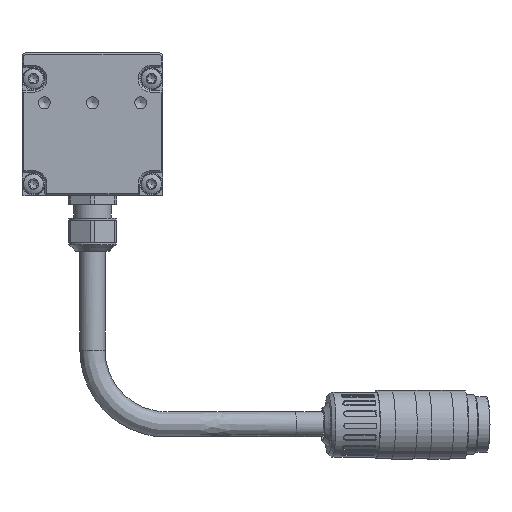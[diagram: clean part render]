
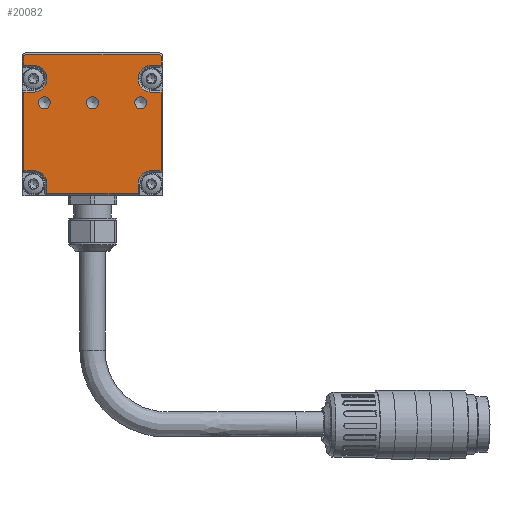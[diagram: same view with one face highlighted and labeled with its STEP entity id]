
A CAD part, left-side view. The second image highlights one B-rep face of the part: STEP entity #20082.
In plain terms, the highlighted planar face has unit normal (-1, 0, 0).
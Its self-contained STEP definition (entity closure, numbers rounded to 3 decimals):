
#880=LINE('',#27913,#1882);
#882=LINE('',#27917,#1884);
#886=LINE('',#27925,#1888);
#889=LINE('',#27931,#1891);
#891=LINE('',#27936,#1893);
#895=LINE('',#27944,#1897);
#897=LINE('',#27948,#1899);
#901=LINE('',#27957,#1903);
#903=LINE('',#27962,#1905);
#906=LINE('',#27970,#1908);
#909=LINE('',#27976,#1911);
#912=LINE('',#27984,#1914);
#916=LINE('',#27992,#1918);
#919=LINE('',#27999,#1921);
#1882=VECTOR('',#23214,1000.);
#1884=VECTOR('',#23218,1000.);
#1888=VECTOR('',#23224,1000.);
#1891=VECTOR('',#23229,1000.);
#1893=VECTOR('',#23235,1000.);
#1897=VECTOR('',#23241,1000.);
#1899=VECTOR('',#23247,1000.);
#1903=VECTOR('',#23257,1000.);
#1905=VECTOR('',#23265,1000.);
#1908=VECTOR('',#23274,1000.);
#1911=VECTOR('',#23283,1000.);
#1914=VECTOR('',#23292,1000.);
#1918=VECTOR('',#23302,1000.);
#1921=VECTOR('',#23311,1000.);
#2682=PLANE('',#21147);
#3923=ORIENTED_EDGE('',*,*,#7674,.T.);
#3924=ORIENTED_EDGE('',*,*,#7675,.T.);
#3925=ORIENTED_EDGE('',*,*,#7676,.T.);
#3926=ORIENTED_EDGE('',*,*,#7648,.T.);
#3927=ORIENTED_EDGE('',*,*,#7645,.T.);
#3928=ORIENTED_EDGE('',*,*,#7639,.T.);
#3929=ORIENTED_EDGE('',*,*,#7656,.T.);
#3930=ORIENTED_EDGE('',*,*,#7654,.T.);
#3931=ORIENTED_EDGE('',*,*,#7652,.T.);
#3932=ORIENTED_EDGE('',*,*,#7630,.T.);
#3933=ORIENTED_EDGE('',*,*,#7663,.T.);
#3934=ORIENTED_EDGE('',*,*,#7661,.T.);
#3935=ORIENTED_EDGE('',*,*,#7659,.T.);
#3936=ORIENTED_EDGE('',*,*,#7628,.T.);
#3937=ORIENTED_EDGE('',*,*,#7673,.F.);
#3938=ORIENTED_EDGE('',*,*,#7643,.T.);
#3939=ORIENTED_EDGE('',*,*,#7672,.F.);
#3940=ORIENTED_EDGE('',*,*,#7637,.T.);
#3941=ORIENTED_EDGE('',*,*,#7671,.T.);
#3942=ORIENTED_EDGE('',*,*,#7669,.T.);
#3943=ORIENTED_EDGE('',*,*,#7667,.T.);
#3944=ORIENTED_EDGE('',*,*,#7634,.T.);
#3945=ORIENTED_EDGE('',*,*,#7650,.T.);
#7628=EDGE_CURVE('',#9566,#9567,#880,.T.);
#7630=EDGE_CURVE('',#9569,#9568,#882,.T.);
#7634=EDGE_CURVE('',#9570,#9571,#886,.T.);
#7637=EDGE_CURVE('',#9572,#9573,#889,.T.);
#7639=EDGE_CURVE('',#9575,#9574,#891,.T.);
#7643=EDGE_CURVE('',#9576,#9577,#895,.T.);
#7645=EDGE_CURVE('',#9578,#9575,#897,.T.);
#7648=EDGE_CURVE('',#9579,#9578,#10697,.T.);
#7650=EDGE_CURVE('',#9571,#9579,#901,.T.);
#7652=EDGE_CURVE('',#9580,#9569,#903,.T.);
#7654=EDGE_CURVE('',#9581,#9580,#10698,.T.);
#7656=EDGE_CURVE('',#9574,#9581,#906,.T.);
#7659=EDGE_CURVE('',#9582,#9566,#909,.T.);
#7661=EDGE_CURVE('',#9583,#9582,#10699,.T.);
#7663=EDGE_CURVE('',#9568,#9583,#912,.T.);
#7667=EDGE_CURVE('',#9584,#9570,#916,.T.);
#7669=EDGE_CURVE('',#9585,#9584,#10700,.T.);
#7671=EDGE_CURVE('',#9573,#9585,#919,.T.);
#7672=EDGE_CURVE('',#9572,#9577,#10701,.T.);
#7673=EDGE_CURVE('',#9576,#9567,#10702,.T.);
#7674=EDGE_CURVE('',#9586,#9586,#10703,.T.);
#7675=EDGE_CURVE('',#9587,#9587,#10704,.T.);
#7676=EDGE_CURVE('',#9588,#9588,#10705,.T.);
#9566=VERTEX_POINT('',#27910);
#9567=VERTEX_POINT('',#27912);
#9568=VERTEX_POINT('',#27916);
#9569=VERTEX_POINT('',#27918);
#9570=VERTEX_POINT('',#27922);
#9571=VERTEX_POINT('',#27924);
#9572=VERTEX_POINT('',#27928);
#9573=VERTEX_POINT('',#27930);
#9574=VERTEX_POINT('',#27935);
#9575=VERTEX_POINT('',#27937);
#9576=VERTEX_POINT('',#27941);
#9577=VERTEX_POINT('',#27943);
#9578=VERTEX_POINT('',#27949);
#9579=VERTEX_POINT('',#27953);
#9580=VERTEX_POINT('',#27963);
#9581=VERTEX_POINT('',#27967);
#9582=VERTEX_POINT('',#27977);
#9583=VERTEX_POINT('',#27981);
#9584=VERTEX_POINT('',#27991);
#9585=VERTEX_POINT('',#27995);
#9586=VERTEX_POINT('',#28007);
#9587=VERTEX_POINT('',#28009);
#9588=VERTEX_POINT('',#28011);
#10697=CIRCLE('',#21122,3.6);
#10698=CIRCLE('',#21128,3.6);
#10699=CIRCLE('',#21134,3.6);
#10700=CIRCLE('',#21140,3.6);
#10701=CIRCLE('',#21144,0.5);
#10702=CIRCLE('',#21146,0.5);
#10703=CIRCLE('',#21148,1.621);
#10704=CIRCLE('',#21149,1.621);
#10705=CIRCLE('',#21150,1.621);
#11388=EDGE_LOOP('',(#3923));
#11389=EDGE_LOOP('',(#3924));
#11390=EDGE_LOOP('',(#3925));
#11391=EDGE_LOOP('',(#3926,#3927,#3928,#3929,#3930,#3931,#3932,#3933,#3934,
#3935,#3936,#3937,#3938,#3939,#3940,#3941,#3942,#3943,#3944,#3945));
#12478=FACE_BOUND('',#11388,.T.);
#12479=FACE_BOUND('',#11389,.T.);
#12480=FACE_BOUND('',#11390,.T.);
#12481=FACE_BOUND('',#11391,.T.);
#20082=ADVANCED_FACE('',(#12478,#12479,#12480,#12481),#2682,.F.);
#21122=AXIS2_PLACEMENT_3D('',#27954,#23252,#23253);
#21128=AXIS2_PLACEMENT_3D('',#27966,#23269,#23270);
#21134=AXIS2_PLACEMENT_3D('',#27980,#23287,#23288);
#21140=AXIS2_PLACEMENT_3D('',#27996,#23306,#23307);
#21144=AXIS2_PLACEMENT_3D('',#28002,#23316,#23317);
#21146=AXIS2_PLACEMENT_3D('',#28004,#23320,#23321);
#21147=AXIS2_PLACEMENT_3D('',#28005,#23322,#23323);
#21148=AXIS2_PLACEMENT_3D('',#28006,#23324,#23325);
#21149=AXIS2_PLACEMENT_3D('',#28008,#23326,#23327);
#21150=AXIS2_PLACEMENT_3D('',#28010,#23328,#23329);
#23214=DIRECTION('',(0.,0.,1.));
#23218=DIRECTION('',(0.,0.,1.));
#23224=DIRECTION('',(0.,0.,-1.));
#23229=DIRECTION('',(0.,0.,-1.));
#23235=DIRECTION('',(0.,-1.,0.));
#23241=DIRECTION('',(0.,1.,0.));
#23247=DIRECTION('',(0.,0.,-1.));
#23252=DIRECTION('',(1.,0.,0.));
#23253=DIRECTION('',(0.,1.,0.));
#23257=DIRECTION('',(0.,-1.,0.));
#23265=DIRECTION('',(0.,-1.,0.));
#23269=DIRECTION('',(1.,0.,0.));
#23270=DIRECTION('',(0.,1.,0.));
#23274=DIRECTION('',(0.,0.,1.));
#23283=DIRECTION('',(0.,-1.,0.));
#23287=DIRECTION('',(1.,0.,0.));
#23288=DIRECTION('',(0.,1.,0.));
#23292=DIRECTION('',(0.,1.,0.));
#23302=DIRECTION('',(0.,1.,0.));
#23306=DIRECTION('',(1.,0.,0.));
#23307=DIRECTION('',(0.,1.,0.));
#23311=DIRECTION('',(0.,-1.,0.));
#23316=DIRECTION('',(1.,0.,0.));
#23317=DIRECTION('',(0.,1.,0.));
#23320=DIRECTION('',(1.,0.,0.));
#23321=DIRECTION('',(0.,1.,0.));
#23322=DIRECTION('',(1.,0.,0.));
#23323=DIRECTION('',(0.,1.,0.));
#23324=DIRECTION('',(1.,0.,0.));
#23325=DIRECTION('',(0.,-1.,0.));
#23326=DIRECTION('',(1.,0.,0.));
#23327=DIRECTION('',(0.,-1.,0.));
#23328=DIRECTION('',(1.,0.,0.));
#23329=DIRECTION('',(0.,-1.,0.));
#27910=CARTESIAN_POINT('',(-314.998,-18.5,35.119));
#27912=CARTESIAN_POINT('',(-314.998,-18.5,37.519));
#27913=CARTESIAN_POINT('',(-314.998,-18.5,0.019));
#27916=CARTESIAN_POINT('',(-314.998,-18.5,27.919));
#27917=CARTESIAN_POINT('',(-314.998,-18.5,0.019));
#27918=CARTESIAN_POINT('',(-314.998,-18.5,6.719));
#27922=CARTESIAN_POINT('',(-314.998,18.5,27.919));
#27924=CARTESIAN_POINT('',(-314.998,18.5,6.719));
#27925=CARTESIAN_POINT('',(-314.998,18.5,0.019));
#27928=CARTESIAN_POINT('',(-314.998,18.5,37.519));
#27930=CARTESIAN_POINT('',(-314.998,18.5,35.119));
#27931=CARTESIAN_POINT('',(-314.998,18.5,0.019));
#27935=CARTESIAN_POINT('',(-314.998,-12.3,0.519));
#27936=CARTESIAN_POINT('',(-314.998,-12.3,0.519));
#27937=CARTESIAN_POINT('',(-314.998,12.3,0.519));
#27941=CARTESIAN_POINT('',(-314.998,-18.,38.019));
#27943=CARTESIAN_POINT('',(-314.998,18.,38.019));
#27944=CARTESIAN_POINT('',(-314.998,-19.,38.019));
#27948=CARTESIAN_POINT('',(-314.998,12.3,0.019));
#27949=CARTESIAN_POINT('',(-314.998,12.3,3.119));
#27953=CARTESIAN_POINT('',(-314.998,15.9,6.719));
#27954=CARTESIAN_POINT('',(-314.998,15.9,3.119));
#27957=CARTESIAN_POINT('',(-314.998,-19.,6.719));
#27962=CARTESIAN_POINT('',(-314.998,-19.,6.719));
#27963=CARTESIAN_POINT('',(-314.998,-15.9,6.719));
#27966=CARTESIAN_POINT('',(-314.998,-15.9,3.119));
#27967=CARTESIAN_POINT('',(-314.998,-12.3,3.119));
#27970=CARTESIAN_POINT('',(-314.998,-12.3,0.019));
#27976=CARTESIAN_POINT('',(-314.998,-19.,35.119));
#27977=CARTESIAN_POINT('',(-314.998,-15.9,35.119));
#27980=CARTESIAN_POINT('',(-314.998,-15.9,31.519));
#27981=CARTESIAN_POINT('',(-314.998,-15.9,27.919));
#27984=CARTESIAN_POINT('',(-314.998,-19.,27.919));
#27991=CARTESIAN_POINT('',(-314.998,15.9,27.919));
#27992=CARTESIAN_POINT('',(-314.998,-19.,27.919));
#27995=CARTESIAN_POINT('',(-314.998,15.9,35.119));
#27996=CARTESIAN_POINT('',(-314.998,15.9,31.519));
#27999=CARTESIAN_POINT('',(-314.998,-19.,35.119));
#28002=CARTESIAN_POINT('',(-314.998,18.,37.519));
#28004=CARTESIAN_POINT('',(-314.998,-18.,37.519));
#28005=CARTESIAN_POINT('',(-314.998,-19.,0.019));
#28006=CARTESIAN_POINT('',(-314.998,13.,25.019));
#28007=CARTESIAN_POINT('',(-314.998,11.379,25.019));
#28008=CARTESIAN_POINT('',(-314.998,0.,25.019));
#28009=CARTESIAN_POINT('',(-314.998,-1.621,25.019));
#28010=CARTESIAN_POINT('',(-314.998,-13.,25.019));
#28011=CARTESIAN_POINT('',(-314.998,-14.621,25.019));
